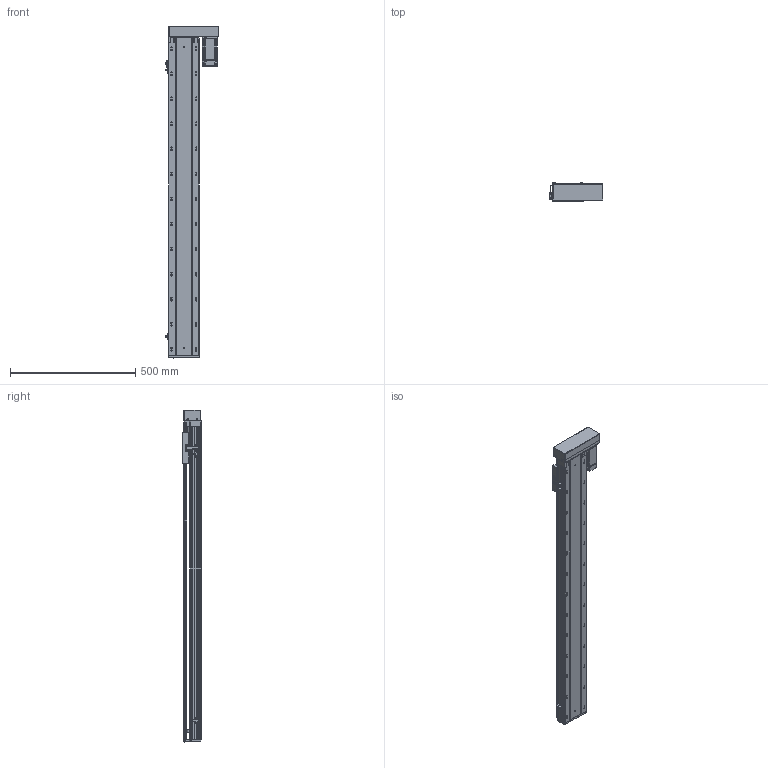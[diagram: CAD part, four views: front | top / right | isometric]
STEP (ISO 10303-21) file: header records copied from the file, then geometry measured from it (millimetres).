
FILE_DESCRIPTION (( 'STEP AP203' ), '1' );
FILE_NAME ('RY120-L2020-1000-RK.SLDASM_1050.step', '2021-03-12T07:29:45', ( '盈信电脑' ), ( '东莞市道滘镇水果街19号' ), 'SwSTEP 2.0', 'SolidWorks 2012', '' );
FILE_SCHEMA (( 'CONFIG_CONTROL_DESIGN' ));
Products named in the file (15): RY120-1000-RK蛌殏倰第奻裔啣_1050; RY120綴裔啣; RY120臏賑輸(20蹟譫); RY120-1000-RK蛌殏倰第菁釱_1050; 滅袉蝶18-10; RY120外置感应片(140共用）; 滅袉蝶18-24; 覜茼ん672; RY120-L2020-1000-RK.SLDASM_1050; RY120-400W萇儂傷-酘衵殏_450; RY120蛌殏萇儂欶; 侂狟400W侜督萇儂; 15; RY120转拆电端丝杆支撑座(20丝杆，7002轴承); RY120酘殏萇儂假蚾啣
Assembly tree (17 placements, depth 4):
  RY120-L2020-1000-RK.SLDASM_1050
    RY120-1000-RK蛌殏倰第菁釱_1050
    RY120-1000-RK蛌殏倰第奻裔啣_1050
    RY120臏賑輸(20蹟譫)
    RY120綴裔啣
    覜茼ん672  x3
    滅袉蝶18-10
    滅袉蝶18-24  x2
    RY120外置感应片(140共用）
    RY120转拆电端丝杆支撑座(20丝杆，7002轴承)
    RY120-400W萇儂傷-酘衵殏_450
      RY120酘殏萇儂假蚾啣
      侂狟400W侜督萇儂
        15
      RY120蛌殏萇儂欶
Bounding box: 214.2 x 73 x 1325 mm (x, y, z)
Volume: 3670064.6 mm3; surface area: 1371875.9 mm2
Topology: 16 solids, 16 shells, 2736 faces, 7595 edges, 4860 vertices
Faces by surface type: plane 1276, cylinder 1100, cone 255, bspline 105
Entity records: 92707 total; most frequent: CARTESIAN_POINT 27135, ORIENTED_EDGE 13830, DIRECTION 12563, EDGE_CURVE 6915, VERTEX_POINT 4528, AXIS2_PLACEMENT_3D 4237, VECTOR 4089, LINE 4089
